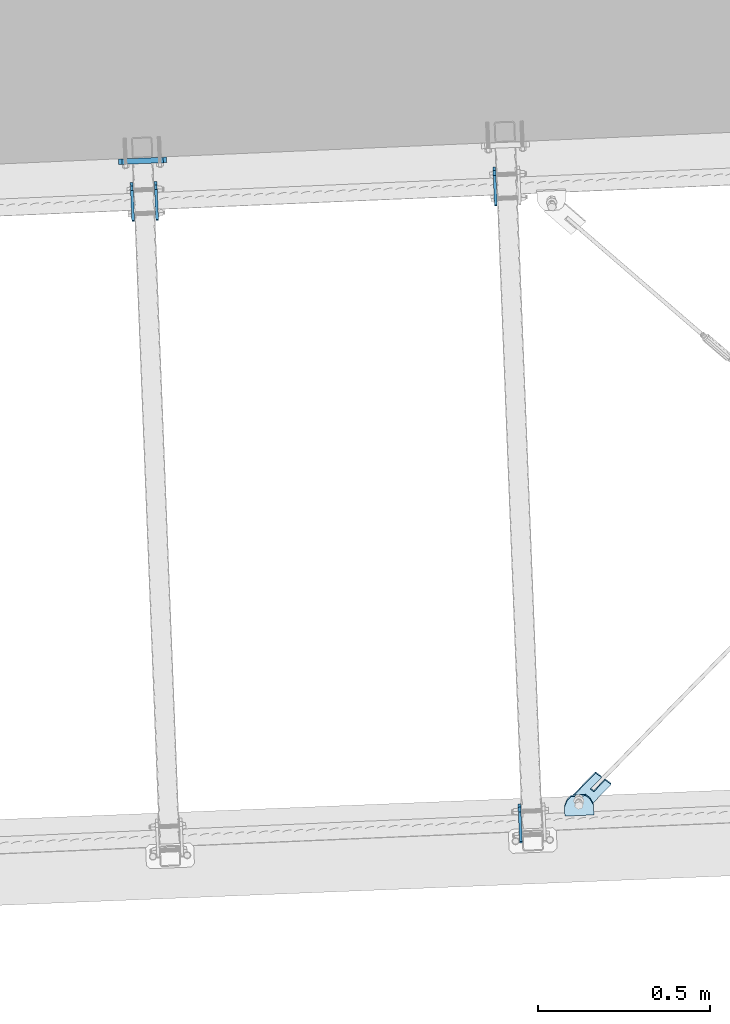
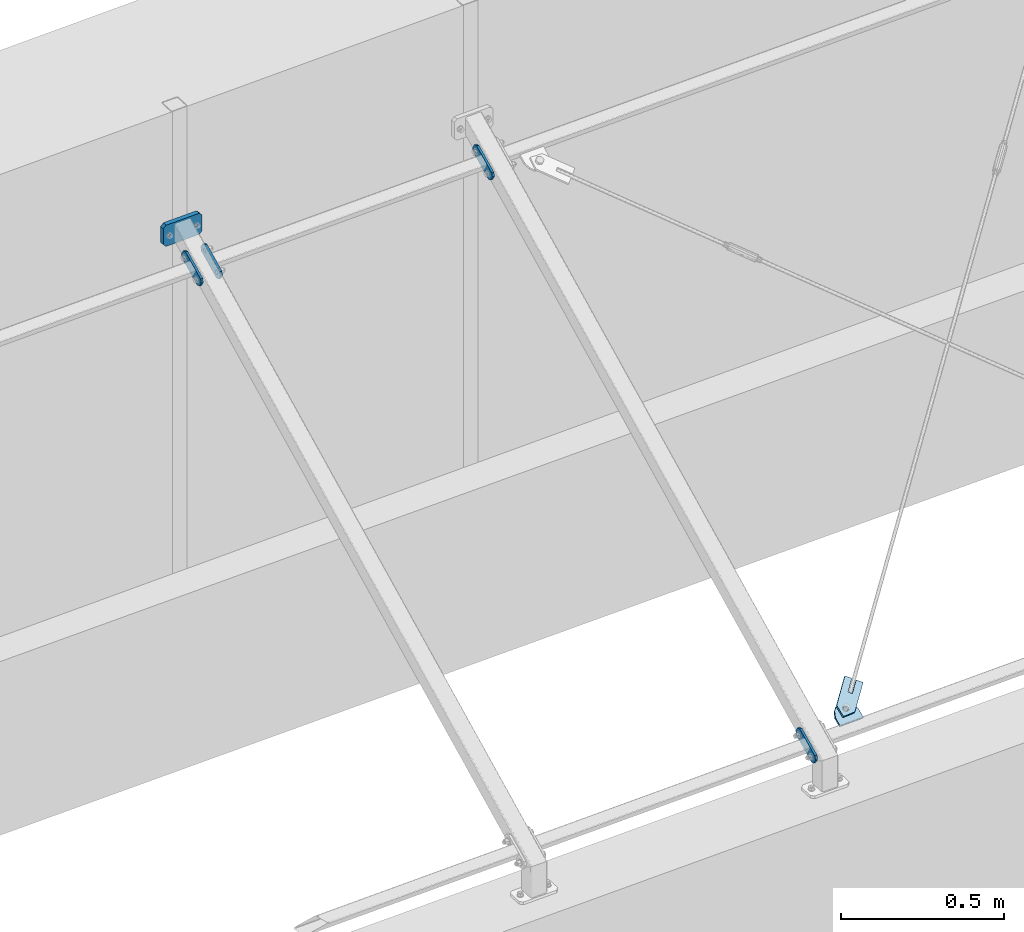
# One storey, part 63 of 288: 7 plates, 40 openings.
"""IFC2X3 building model written with IfcOpenShell, lengths in millimetres."""

from ifc_helpers import new_model, entity, si_unit, converted_unit, point, frame, frame_2d, origin, origin_with_axes, origin_2d_with_axis, place, context, project, spatial, polyline, circle_curve, line_curve, trimmed, segment, composite_curve, circle, outline, extrude, material, layer, layer_set, element, save


model = new_model("IFC2X3")

# Units and contexts
model_context = context("Model", 3, precision=1e-09, world=origin_with_axes())
ifc_project = project(units=[si_unit("LENGTHUNIT", "METRE", prefix="MILLI"), si_unit("AREAUNIT", "SQUARE_METRE"), si_unit("VOLUMEUNIT", "CUBIC_METRE"), converted_unit("PLANEANGLEUNIT", "DEGREE", entity("IfcPlaneAngleMeasure", 0.01745329), si_unit("PLANEANGLEUNIT", "RADIAN"), dimensions=[0, 0, 0, 0, 0, 0, 0])], contexts=[model_context])

# Site, building, storey
site_placement = place(None, origin_with_axes())
site = spatial("IfcSite", under=ifc_project, at=site_placement, Name="Remont ?wietlik?w nad MC w NCPP w Opolu", CompositionType="ELEMENT")
building_placement = place(site_placement, origin_with_axes())
building = spatial("IfcBuilding", under=site, at=building_placement, Name="Konstrukcja 1", CompositionType="ELEMENT")
storey_placement = place(building_placement, origin_with_axes())
storey = spatial("IfcBuildingStorey", under=building, at=storey_placement, Name="Default Storey", CompositionType="ELEMENT", Elevation=0.0)

# Plate, openings
ifc_material = material(Name="S235")
ifc_layer_1 = layer(ifc_material, 8.0)
ifc_layer_set_1 = layer_set([ifc_layer_1], Name="S235")
plate_1_placement = place(None, frame((6556.54076024, 15663.937336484, 1175.254692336), z_axis=(-0.999102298, -0.042361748, 0.000284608), x_axis=(0.021561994, -0.502733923, 0.864172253)))
plate_1 = element("IfcPlate", 1, at=plate_1_placement, inside=storey, material=ifc_layer_set_1, Name="-", ObjectType="-", context=model_context, shape_type="SweptSolid", body=[
    extrude(outline(polyline([(0.0, 0.0), (40.0, 0.0), (40.0, 120.0), (0.0, 120.0), (0.0, 0.0)])), origin_with_axes(), (0.0, 0.0, 1.0), 8.0),
])
opening_1_placement = place(plate_1_placement, frame((0.0, 0.0, -0.01), z_axis=(0.0, 0.0, 1.0), x_axis=(1.0, 0.0, 0.0)))
element("IfcOpeningElement", 2, at=opening_1_placement, cuts=plate_1, ObjectType="Opening", context=model_context, shape_type="SweptSolid", body=[
    extrude(outline(composite_curve([segment(trimmed(line_curve((40.0, 0.0), (0.0, 1.0), 10.0), [point((40.0, 0.0))], [point((40.0, 10.0))], True, "CARTESIAN"), True, "CONTINUOUS"), segment(trimmed(circle_curve(frame_2d((30.0, 10.0), x_axis=(-1.0, 0.0)), 10.0), [point((40.0, 10.0))], [point((30.0, 0.0))], False, "CARTESIAN"), True, "CONTINUOUS"), segment(trimmed(line_curve((30.0, 0.0), (1.0, 0.0), 10.0), [point((30.0, 0.0))], [point((40.0, 0.0))], True, "CARTESIAN"), True, "CONTINUOUS")], self_intersect=False)), origin(), (0.0, 0.0, 1.0), 8.02),
])
opening_2_placement = place(plate_1_placement, frame((0.0, 0.0, -0.01), z_axis=(0.0, 0.0, 1.0), x_axis=(1.0, 0.0, 0.0)))
element("IfcOpeningElement", 3, at=opening_2_placement, cuts=plate_1, ObjectType="Opening", context=model_context, shape_type="SweptSolid", body=[
    extrude(outline(composite_curve([segment(trimmed(line_curve((0.0, 0.0), (1.0, 0.0), 10.0), [point((0.0, 0.0))], [point((10.0, 0.0))], True, "CARTESIAN"), True, "CONTINUOUS"), segment(trimmed(circle_curve(frame_2d((10.0, 10.0), x_axis=(-1.0, 0.0)), 10.0), [point((10.0, 0.0))], [point((0.0, 10.0))], False, "CARTESIAN"), True, "CONTINUOUS"), segment(trimmed(line_curve((0.0, 10.0), (0.0, -1.0), 10.0), [point((0.0, 10.0))], [point((0.0, 0.0))], True, "CARTESIAN"), True, "CONTINUOUS")], self_intersect=False)), origin(), (0.0, 0.0, 1.0), 8.02),
])
opening_3_placement = place(plate_1_placement, frame((0.0, 0.0, -0.01), z_axis=(0.0, 0.0, 1.0), x_axis=(1.0, 0.0, 0.0)))
element("IfcOpeningElement", 4, at=opening_3_placement, cuts=plate_1, ObjectType="Opening", context=model_context, shape_type="SweptSolid", body=[
    extrude(outline(composite_curve([segment(trimmed(line_curve((40.0, 120.0), (-1.0, 0.0), 10.0), [point((40.0, 120.0))], [point((30.0, 120.0))], True, "CARTESIAN"), True, "CONTINUOUS"), segment(trimmed(circle_curve(frame_2d((30.0, 110.0), x_axis=(-1.0, 0.0)), 10.0), [point((30.0, 120.0))], [point((40.0, 110.0))], False, "CARTESIAN"), True, "CONTINUOUS"), segment(trimmed(line_curve((40.0, 110.0), (0.0, 1.0), 10.0), [point((40.0, 110.0))], [point((40.0, 120.0))], True, "CARTESIAN"), True, "CONTINUOUS")], self_intersect=False)), origin(), (0.0, 0.0, 1.0), 8.02),
])
opening_4_placement = place(plate_1_placement, frame((0.0, 0.0, -0.01), z_axis=(0.0, 0.0, 1.0), x_axis=(1.0, 0.0, 0.0)))
element("IfcOpeningElement", 5, at=opening_4_placement, cuts=plate_1, ObjectType="Opening", context=model_context, shape_type="SweptSolid", body=[
    extrude(outline(composite_curve([segment(trimmed(line_curve((0.0, 120.0), (0.0, -1.0), 10.0), [point((0.0, 120.0))], [point((0.0, 110.0))], True, "CARTESIAN"), True, "CONTINUOUS"), segment(trimmed(circle_curve(frame_2d((10.0, 110.0), x_axis=(-1.0, 0.0)), 10.0), [point((0.0, 110.0))], [point((10.0, 120.0))], False, "CARTESIAN"), True, "CONTINUOUS"), segment(trimmed(line_curve((10.0, 120.0), (-1.0, 0.0), 10.0), [point((10.0, 120.0))], [point((0.0, 120.0))], True, "CARTESIAN"), True, "CONTINUOUS")], self_intersect=False)), origin(), (0.0, 0.0, 1.0), 8.02),
])
opening_5_placement = place(plate_1_placement, frame((20.0, 60.0, -0.5), z_axis=(0.0, 0.0, 1.0), x_axis=(1.0, 0.0, 0.0)))
element("IfcOpeningElement", 6, at=opening_5_placement, cuts=plate_1, ObjectType="Opening", context=model_context, shape_type="SweptSolid", body=[
    extrude(circle(Radius=7.001, at=frame_2d((0.0, 40.0), x_axis=(1.0, 0.0))), origin(), (0.0, 0.0, 1.0), 9.0),
])
opening_6_placement = place(plate_1_placement, frame((20.0, 60.0, -0.5), z_axis=(0.0, 0.0, 1.0), x_axis=(1.0, 0.0, 0.0)))
element("IfcOpeningElement", 7, at=opening_6_placement, cuts=plate_1, ObjectType="Opening", context=model_context, shape_type="SweptSolid", body=[
    extrude(circle(Radius=7.001, at=frame_2d((0.0, -40.0), x_axis=(1.0, 0.0))), origin(), (0.0, 0.0, 1.0), 9.0),
])

plate_2_placement = place(None, frame((6629.657102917, 13809.081196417, 92.117420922), z_axis=(-0.999102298, -0.042361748, 0.000284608), x_axis=(0.021561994, -0.502733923, 0.864172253)))
plate_2 = element("IfcPlate", 8, at=plate_2_placement, inside=storey, material=ifc_layer_set_1, Name="-", ObjectType="-", context=model_context, shape_type="SweptSolid", body=[
    extrude(outline(polyline([(0.0, 0.0), (40.0, 0.0), (40.0, 120.0), (0.0, 120.0), (0.0, 0.0)])), origin_with_axes(), (0.0, 0.0, 1.0), 8.0),
])
opening_7_placement = place(plate_2_placement, frame((12.999, 100.0, 8.5), z_axis=(0.0, 0.0, 1.0), x_axis=(1.0, 0.0, 0.0)))
element("IfcOpeningElement", 9, at=opening_7_placement, cuts=plate_2, ObjectType="Opening", context=model_context, shape_type="SweptSolid", body=[
    extrude(circle(Radius=7.001, at=frame_2d((7.001, 0.0), x_axis=(1.0, 0.0))), origin(), (0.0, 0.0, -1.0), 9.0),
])
opening_8_placement = place(plate_2_placement, frame((12.999, 20.0, 8.5), z_axis=(0.0, 0.0, 1.0), x_axis=(1.0, 0.0, 0.0)))
element("IfcOpeningElement", 10, at=opening_8_placement, cuts=plate_2, ObjectType="Opening", context=model_context, shape_type="SweptSolid", body=[
    extrude(circle(Radius=7.001, at=frame_2d((7.001, 0.0), x_axis=(1.0, 0.0))), origin(), (0.0, 0.0, -1.0), 9.0),
])
opening_9_placement = place(plate_2_placement, frame((0.0, 0.0, -0.01), z_axis=(0.0, 0.0, 1.0), x_axis=(1.0, 0.0, 0.0)))
element("IfcOpeningElement", 11, at=opening_9_placement, cuts=plate_2, ObjectType="Opening", context=model_context, shape_type="SweptSolid", body=[
    extrude(outline(composite_curve([segment(trimmed(line_curve((40.0, 0.0), (0.0, 1.0), 10.0), [point((40.0, 0.0))], [point((40.0, 10.0))], True, "CARTESIAN"), True, "CONTINUOUS"), segment(trimmed(circle_curve(frame_2d((30.0, 10.0), x_axis=(-1.0, 0.0)), 10.0), [point((40.0, 10.0))], [point((30.0, 0.0))], False, "CARTESIAN"), True, "CONTINUOUS"), segment(trimmed(line_curve((30.0, 0.0), (1.0, 0.0), 10.0), [point((30.0, 0.0))], [point((40.0, 0.0))], True, "CARTESIAN"), True, "CONTINUOUS")], self_intersect=False)), origin(), (0.0, 0.0, 1.0), 8.02),
])
opening_10_placement = place(plate_2_placement, frame((0.0, 0.0, -0.01), z_axis=(0.0, 0.0, 1.0), x_axis=(1.0, 0.0, 0.0)))
element("IfcOpeningElement", 12, at=opening_10_placement, cuts=plate_2, ObjectType="Opening", context=model_context, shape_type="SweptSolid", body=[
    extrude(outline(composite_curve([segment(trimmed(line_curve((0.0, 0.0), (1.0, 0.0), 10.0), [point((0.0, 0.0))], [point((10.0, 0.0))], True, "CARTESIAN"), True, "CONTINUOUS"), segment(trimmed(circle_curve(frame_2d((10.0, 10.0), x_axis=(-1.0, 0.0)), 10.0), [point((10.0, 0.0))], [point((0.0, 10.0))], False, "CARTESIAN"), True, "CONTINUOUS"), segment(trimmed(line_curve((0.0, 10.0), (0.0, -1.0), 10.0), [point((0.0, 10.0))], [point((0.0, 0.0))], True, "CARTESIAN"), True, "CONTINUOUS")], self_intersect=False)), origin(), (0.0, 0.0, 1.0), 8.02),
])
opening_11_placement = place(plate_2_placement, frame((0.0, 0.0, -0.01), z_axis=(0.0, 0.0, 1.0), x_axis=(1.0, 0.0, 0.0)))
element("IfcOpeningElement", 13, at=opening_11_placement, cuts=plate_2, ObjectType="Opening", context=model_context, shape_type="SweptSolid", body=[
    extrude(outline(composite_curve([segment(trimmed(line_curve((40.0, 120.0), (-1.0, 0.0), 10.0), [point((40.0, 120.0))], [point((30.0, 120.0))], True, "CARTESIAN"), True, "CONTINUOUS"), segment(trimmed(circle_curve(frame_2d((30.0, 110.0), x_axis=(-1.0, 0.0)), 10.0), [point((30.0, 120.0))], [point((40.0, 110.0))], False, "CARTESIAN"), True, "CONTINUOUS"), segment(trimmed(line_curve((40.0, 110.0), (0.0, 1.0), 10.0), [point((40.0, 110.0))], [point((40.0, 120.0))], True, "CARTESIAN"), True, "CONTINUOUS")], self_intersect=False)), origin(), (0.0, 0.0, 1.0), 8.02),
])
opening_12_placement = place(plate_2_placement, frame((0.0, 0.0, -0.01), z_axis=(0.0, 0.0, 1.0), x_axis=(1.0, 0.0, 0.0)))
element("IfcOpeningElement", 14, at=opening_12_placement, cuts=plate_2, ObjectType="Opening", context=model_context, shape_type="SweptSolid", body=[
    extrude(outline(composite_curve([segment(trimmed(line_curve((0.0, 120.0), (0.0, -1.0), 10.0), [point((0.0, 120.0))], [point((0.0, 110.0))], True, "CARTESIAN"), True, "CONTINUOUS"), segment(trimmed(circle_curve(frame_2d((10.0, 110.0), x_axis=(-1.0, 0.0)), 10.0), [point((0.0, 110.0))], [point((10.0, 120.0))], False, "CARTESIAN"), True, "CONTINUOUS"), segment(trimmed(line_curve((10.0, 120.0), (-1.0, 0.0), 10.0), [point((10.0, 120.0))], [point((0.0, 120.0))], True, "CARTESIAN"), True, "CONTINUOUS")], self_intersect=False)), origin(), (0.0, 0.0, 1.0), 8.02),
])
opening_13_placement = place(plate_2_placement, frame((12.999, 100.0, 8.5), z_axis=(0.0, 0.0, 1.0), x_axis=(1.0, 0.0, 0.0)))
element("IfcOpeningElement", 15, at=opening_13_placement, cuts=plate_2, ObjectType="Opening", context=model_context, shape_type="SweptSolid", body=[
    extrude(circle(Radius=7.001, at=frame_2d((7.001, 0.0), x_axis=(1.0, 0.0))), origin(), (0.0, 0.0, -1.0), 9.0),
])
opening_14_placement = place(plate_2_placement, frame((12.999, 20.0, 8.5), z_axis=(0.0, 0.0, 1.0), x_axis=(1.0, 0.0, 0.0)))
element("IfcOpeningElement", 16, at=opening_14_placement, cuts=plate_2, ObjectType="Opening", context=model_context, shape_type="SweptSolid", body=[
    extrude(circle(Radius=7.001, at=frame_2d((7.001, 0.0), x_axis=(1.0, 0.0))), origin(), (0.0, 0.0, -1.0), 9.0),
])

plate_3_placement = place(None, frame((5569.838931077, 15622.101365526, 1175.535767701), z_axis=(-0.999102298, -0.042361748, 0.000284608), x_axis=(0.021561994, -0.502733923, 0.864172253)))
plate_3 = element("IfcPlate", 17, at=plate_3_placement, inside=storey, material=ifc_layer_set_1, Name="-", ObjectType="-", context=model_context, shape_type="SweptSolid", body=[
    extrude(outline(polyline([(0.0, 0.0), (40.0, 0.0), (40.0, 120.0), (0.0, 120.0), (0.0, 0.0)])), origin_with_axes(), (0.0, 0.0, 1.0), 8.0),
])
opening_15_placement = place(plate_3_placement, frame((0.0, 0.0, -0.01), z_axis=(0.0, 0.0, 1.0), x_axis=(1.0, 0.0, 0.0)))
element("IfcOpeningElement", 18, at=opening_15_placement, cuts=plate_3, ObjectType="Opening", context=model_context, shape_type="SweptSolid", body=[
    extrude(outline(composite_curve([segment(trimmed(line_curve((0.0, 0.0), (1.0, 0.0), 10.0), [point((0.0, 0.0))], [point((10.0, 0.0))], True, "CARTESIAN"), True, "CONTINUOUS"), segment(trimmed(circle_curve(frame_2d((10.0, 10.0), x_axis=(-1.0, 0.0)), 10.0), [point((10.0, 0.0))], [point((0.0, 10.0))], False, "CARTESIAN"), True, "CONTINUOUS"), segment(trimmed(line_curve((0.0, 10.0), (0.0, -1.0), 10.0), [point((0.0, 10.0))], [point((0.0, 0.0))], True, "CARTESIAN"), True, "CONTINUOUS")], self_intersect=False)), origin(), (0.0, 0.0, 1.0), 8.02),
])
opening_16_placement = place(plate_3_placement, frame((0.0, 0.0, -0.01), z_axis=(0.0, 0.0, 1.0), x_axis=(1.0, 0.0, 0.0)))
element("IfcOpeningElement", 19, at=opening_16_placement, cuts=plate_3, ObjectType="Opening", context=model_context, shape_type="SweptSolid", body=[
    extrude(outline(composite_curve([segment(trimmed(line_curve((40.0, 0.0), (0.0, 1.0), 10.0), [point((40.0, 0.0))], [point((40.0, 10.0))], True, "CARTESIAN"), True, "CONTINUOUS"), segment(trimmed(circle_curve(frame_2d((30.0, 10.0), x_axis=(-1.0, 0.0)), 10.0), [point((40.0, 10.0))], [point((30.0, 0.0))], False, "CARTESIAN"), True, "CONTINUOUS"), segment(trimmed(line_curve((30.0, 0.0), (1.0, 0.0), 10.0), [point((30.0, 0.0))], [point((40.0, 0.0))], True, "CARTESIAN"), True, "CONTINUOUS")], self_intersect=False)), origin(), (0.0, 0.0, 1.0), 8.02),
])
opening_17_placement = place(plate_3_placement, frame((0.0, 0.0, -0.01), z_axis=(0.0, 0.0, 1.0), x_axis=(1.0, 0.0, 0.0)))
element("IfcOpeningElement", 20, at=opening_17_placement, cuts=plate_3, ObjectType="Opening", context=model_context, shape_type="SweptSolid", body=[
    extrude(outline(composite_curve([segment(trimmed(line_curve((40.0, 120.0), (-1.0, 0.0), 10.0), [point((40.0, 120.0))], [point((30.0, 120.0))], True, "CARTESIAN"), True, "CONTINUOUS"), segment(trimmed(circle_curve(frame_2d((30.0, 110.0), x_axis=(-1.0, 0.0)), 10.0), [point((30.0, 120.0))], [point((40.0, 110.0))], False, "CARTESIAN"), True, "CONTINUOUS"), segment(trimmed(line_curve((40.0, 110.0), (0.0, 1.0), 10.0), [point((40.0, 110.0))], [point((40.0, 120.0))], True, "CARTESIAN"), True, "CONTINUOUS")], self_intersect=False)), origin(), (0.0, 0.0, 1.0), 8.02),
])
opening_18_placement = place(plate_3_placement, frame((0.0, 0.0, -0.01), z_axis=(0.0, 0.0, 1.0), x_axis=(1.0, 0.0, 0.0)))
element("IfcOpeningElement", 21, at=opening_18_placement, cuts=plate_3, ObjectType="Opening", context=model_context, shape_type="SweptSolid", body=[
    extrude(outline(composite_curve([segment(trimmed(line_curve((0.0, 120.0), (0.0, -1.0), 10.0), [point((0.0, 120.0))], [point((0.0, 110.0))], True, "CARTESIAN"), True, "CONTINUOUS"), segment(trimmed(circle_curve(frame_2d((10.0, 110.0), x_axis=(-1.0, 0.0)), 10.0), [point((0.0, 110.0))], [point((10.0, 120.0))], False, "CARTESIAN"), True, "CONTINUOUS"), segment(trimmed(line_curve((10.0, 120.0), (-1.0, 0.0), 10.0), [point((10.0, 120.0))], [point((0.0, 120.0))], True, "CARTESIAN"), True, "CONTINUOUS")], self_intersect=False)), origin(), (0.0, 0.0, 1.0), 8.02),
])
opening_19_placement = place(plate_3_placement, frame((20.0, 60.0, -0.5), z_axis=(0.0, 0.0, 1.0), x_axis=(1.0, 0.0, 0.0)))
element("IfcOpeningElement", 22, at=opening_19_placement, cuts=plate_3, ObjectType="Opening", context=model_context, shape_type="SweptSolid", body=[
    extrude(circle(Radius=7.001, at=frame_2d((0.0, 40.0), x_axis=(1.0, 0.0))), origin(), (0.0, 0.0, 1.0), 9.0),
])
opening_20_placement = place(plate_3_placement, frame((20.0, 60.0, -0.5), z_axis=(0.0, 0.0, 1.0), x_axis=(1.0, 0.0, 0.0)))
element("IfcOpeningElement", 23, at=opening_20_placement, cuts=plate_3, ObjectType="Opening", context=model_context, shape_type="SweptSolid", body=[
    extrude(circle(Radius=7.001, at=frame_2d((0.0, -40.0), x_axis=(1.0, 0.0))), origin(), (0.0, 0.0, 1.0), 9.0),
])

plate_4_placement = place(None, frame((5499.901770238, 15619.136043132, 1175.555690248), z_axis=(-0.999102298, -0.042361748, 0.000284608), x_axis=(0.021561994, -0.502733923, 0.864172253)))
plate_4 = element("IfcPlate", 24, at=plate_4_placement, inside=storey, material=ifc_layer_set_1, Name="-", ObjectType="-", context=model_context, shape_type="SweptSolid", body=[
    extrude(outline(polyline([(0.0, 0.0), (40.0, 0.0), (40.0, 120.0), (0.0, 120.0), (0.0, 0.0)])), origin_with_axes(), (0.0, 0.0, 1.0), 8.0),
])
opening_21_placement = place(plate_4_placement, frame((0.0, 0.0, -0.01), z_axis=(0.0, 0.0, 1.0), x_axis=(1.0, 0.0, 0.0)))
element("IfcOpeningElement", 25, at=opening_21_placement, cuts=plate_4, ObjectType="Opening", context=model_context, shape_type="SweptSolid", body=[
    extrude(outline(composite_curve([segment(trimmed(line_curve((40.0, 0.0), (0.0, 1.0), 10.0), [point((40.0, 0.0))], [point((40.0, 10.0))], True, "CARTESIAN"), True, "CONTINUOUS"), segment(trimmed(circle_curve(frame_2d((30.0, 10.0), x_axis=(-1.0, 0.0)), 10.0), [point((40.0, 10.0))], [point((30.0, 0.0))], False, "CARTESIAN"), True, "CONTINUOUS"), segment(trimmed(line_curve((30.0, 0.0), (1.0, 0.0), 10.0), [point((30.0, 0.0))], [point((40.0, 0.0))], True, "CARTESIAN"), True, "CONTINUOUS")], self_intersect=False)), origin(), (0.0, 0.0, 1.0), 8.02),
])
opening_22_placement = place(plate_4_placement, frame((0.0, 0.0, -0.01), z_axis=(0.0, 0.0, 1.0), x_axis=(1.0, 0.0, 0.0)))
element("IfcOpeningElement", 26, at=opening_22_placement, cuts=plate_4, ObjectType="Opening", context=model_context, shape_type="SweptSolid", body=[
    extrude(outline(composite_curve([segment(trimmed(line_curve((0.0, 0.0), (1.0, 0.0), 10.0), [point((0.0, 0.0))], [point((10.0, 0.0))], True, "CARTESIAN"), True, "CONTINUOUS"), segment(trimmed(circle_curve(frame_2d((10.0, 10.0), x_axis=(-1.0, 0.0)), 10.0), [point((10.0, 0.0))], [point((0.0, 10.0))], False, "CARTESIAN"), True, "CONTINUOUS"), segment(trimmed(line_curve((0.0, 10.0), (0.0, -1.0), 10.0), [point((0.0, 10.0))], [point((0.0, 0.0))], True, "CARTESIAN"), True, "CONTINUOUS")], self_intersect=False)), origin(), (0.0, 0.0, 1.0), 8.02),
])
opening_23_placement = place(plate_4_placement, frame((0.0, 0.0, -0.01), z_axis=(0.0, 0.0, 1.0), x_axis=(1.0, 0.0, 0.0)))
element("IfcOpeningElement", 27, at=opening_23_placement, cuts=plate_4, ObjectType="Opening", context=model_context, shape_type="SweptSolid", body=[
    extrude(outline(composite_curve([segment(trimmed(line_curve((40.0, 120.0), (-1.0, 0.0), 10.0), [point((40.0, 120.0))], [point((30.0, 120.0))], True, "CARTESIAN"), True, "CONTINUOUS"), segment(trimmed(circle_curve(frame_2d((30.0, 110.0), x_axis=(-1.0, 0.0)), 10.0), [point((30.0, 120.0))], [point((40.0, 110.0))], False, "CARTESIAN"), True, "CONTINUOUS"), segment(trimmed(line_curve((40.0, 110.0), (0.0, 1.0), 10.0), [point((40.0, 110.0))], [point((40.0, 120.0))], True, "CARTESIAN"), True, "CONTINUOUS")], self_intersect=False)), origin(), (0.0, 0.0, 1.0), 8.02),
])
opening_24_placement = place(plate_4_placement, frame((0.0, 0.0, -0.01), z_axis=(0.0, 0.0, 1.0), x_axis=(1.0, 0.0, 0.0)))
element("IfcOpeningElement", 28, at=opening_24_placement, cuts=plate_4, ObjectType="Opening", context=model_context, shape_type="SweptSolid", body=[
    extrude(outline(composite_curve([segment(trimmed(line_curve((0.0, 120.0), (0.0, -1.0), 10.0), [point((0.0, 120.0))], [point((0.0, 110.0))], True, "CARTESIAN"), True, "CONTINUOUS"), segment(trimmed(circle_curve(frame_2d((10.0, 110.0), x_axis=(-1.0, 0.0)), 10.0), [point((0.0, 110.0))], [point((10.0, 120.0))], False, "CARTESIAN"), True, "CONTINUOUS"), segment(trimmed(line_curve((10.0, 120.0), (-1.0, 0.0), 10.0), [point((10.0, 120.0))], [point((0.0, 120.0))], True, "CARTESIAN"), True, "CONTINUOUS")], self_intersect=False)), origin(), (0.0, 0.0, 1.0), 8.02),
])
opening_25_placement = place(plate_4_placement, frame((20.0, 60.0, -0.5), z_axis=(0.0, 0.0, 1.0), x_axis=(1.0, 0.0, 0.0)))
element("IfcOpeningElement", 29, at=opening_25_placement, cuts=plate_4, ObjectType="Opening", context=model_context, shape_type="SweptSolid", body=[
    extrude(circle(Radius=7.001, at=frame_2d((0.0, 40.0), x_axis=(1.0, 0.0))), origin(), (0.0, 0.0, 1.0), 9.0),
])
opening_26_placement = place(plate_4_placement, frame((20.0, 60.0, -0.5), z_axis=(0.0, 0.0, 1.0), x_axis=(1.0, 0.0, 0.0)))
element("IfcOpeningElement", 30, at=opening_26_placement, cuts=plate_4, ObjectType="Opening", context=model_context, shape_type="SweptSolid", body=[
    extrude(circle(Radius=7.001, at=frame_2d((0.0, -40.0), x_axis=(1.0, 0.0))), origin(), (0.0, 0.0, 1.0), 9.0),
])

ifc_layer_2 = layer(ifc_material, 16.0)
ifc_layer_set_2 = layer_set([ifc_layer_2], Name="S235")
plate_5_placement = place(None, frame((5594.341771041, 15775.480694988, 1327.245875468), z_axis=(-0.039393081, 0.999223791, 0.0), x_axis=(0.0, 0.0, -1.0)))
plate_5 = element("IfcPlate", 31, at=plate_5_placement, inside=storey, material=ifc_layer_set_2, Name="Baseplate", ObjectType="Baseplate", context=model_context, shape_type="SweptSolid", body=[
    extrude(outline(polyline([(0.0, 0.0), (79.46690723, 0.0), (79.46690723, 140.0), (0.0, 140.0), (0.0, 0.0)])), origin_with_axes(), (0.0, 0.0, 1.0), 16.0),
])
opening_27_placement = place(plate_5_placement, frame((0.0, 0.0, -0.01), z_axis=(0.0, 0.0, 1.0), x_axis=(1.0, 0.0, 0.0)))
element("IfcOpeningElement", 32, at=opening_27_placement, cuts=plate_5, ObjectType="Opening", context=model_context, shape_type="SweptSolid", body=[
    extrude(outline(composite_curve([segment(trimmed(line_curve((0.0, 140.0), (0.0, -1.0), 10.0), [point((0.0, 140.0))], [point((0.0, 130.0))], True, "CARTESIAN"), True, "CONTINUOUS"), segment(trimmed(circle_curve(frame_2d((10.0, 130.0), x_axis=(-1.0, 0.0)), 10.0), [point((0.0, 130.0))], [point((10.0, 140.0))], False, "CARTESIAN"), True, "CONTINUOUS"), segment(trimmed(line_curve((10.0, 140.0), (-1.0, 0.0), 10.0), [point((10.0, 140.0))], [point((0.0, 140.0))], True, "CARTESIAN"), True, "CONTINUOUS")], self_intersect=False)), origin(), (0.0, 0.0, 1.0), 16.02),
])
opening_28_placement = place(plate_5_placement, frame((0.0, 0.0, -0.01), z_axis=(0.0, 0.0, 1.0), x_axis=(1.0, 0.0, 0.0)))
element("IfcOpeningElement", 33, at=opening_28_placement, cuts=plate_5, ObjectType="Opening", context=model_context, shape_type="SweptSolid", body=[
    extrude(outline(composite_curve([segment(trimmed(line_curve((79.46690723, 140.0), (-1.0, 0.0), 10.0), [point((79.46690723, 140.0))], [point((69.46690723, 140.0))], True, "CARTESIAN"), True, "CONTINUOUS"), segment(trimmed(circle_curve(frame_2d((69.46690723, 130.0), x_axis=(-1.0, 0.0)), 10.0), [point((69.46690723, 140.0))], [point((79.46690723, 130.0))], False, "CARTESIAN"), True, "CONTINUOUS"), segment(trimmed(line_curve((79.46690723, 130.0), (0.0, 1.0), 10.0), [point((79.46690723, 130.0))], [point((79.46690723, 140.0))], True, "CARTESIAN"), True, "CONTINUOUS")], self_intersect=False)), origin(), (0.0, 0.0, 1.0), 16.02),
])
opening_29_placement = place(plate_5_placement, frame((0.0, 0.0, -0.01), z_axis=(0.0, 0.0, 1.0), x_axis=(1.0, 0.0, 0.0)))
element("IfcOpeningElement", 34, at=opening_29_placement, cuts=plate_5, ObjectType="Opening", context=model_context, shape_type="SweptSolid", body=[
    extrude(outline(composite_curve([segment(trimmed(line_curve((79.46690723, 0.0), (0.0, 1.0), 10.0), [point((79.46690723, 0.0))], [point((79.46690723, 10.0))], True, "CARTESIAN"), True, "CONTINUOUS"), segment(trimmed(circle_curve(frame_2d((69.46690723, 10.0), x_axis=(-1.0, 0.0)), 10.0), [point((79.46690723, 10.0))], [point((69.46690723, 0.0))], False, "CARTESIAN"), True, "CONTINUOUS"), segment(trimmed(line_curve((69.46690723, 0.0), (1.0, 0.0), 10.0), [point((69.46690723, 0.0))], [point((79.46690723, 0.0))], True, "CARTESIAN"), True, "CONTINUOUS")], self_intersect=False)), origin(), (0.0, 0.0, 1.0), 16.02),
])
opening_30_placement = place(plate_5_placement, frame((0.0, 0.0, -0.01), z_axis=(0.0, 0.0, 1.0), x_axis=(1.0, 0.0, 0.0)))
element("IfcOpeningElement", 35, at=opening_30_placement, cuts=plate_5, ObjectType="Opening", context=model_context, shape_type="SweptSolid", body=[
    extrude(outline(composite_curve([segment(trimmed(line_curve((0.0, 0.0), (1.0, 0.0), 10.0), [point((0.0, 0.0))], [point((10.0, 0.0))], True, "CARTESIAN"), True, "CONTINUOUS"), segment(trimmed(circle_curve(frame_2d((10.0, 10.0), x_axis=(-1.0, 0.0)), 10.0), [point((10.0, 0.0))], [point((0.0, 10.0))], False, "CARTESIAN"), True, "CONTINUOUS"), segment(trimmed(line_curve((0.0, 10.0), (0.0, -1.0), 10.0), [point((0.0, 10.0))], [point((0.0, 0.0))], True, "CARTESIAN"), True, "CONTINUOUS")], self_intersect=False)), origin(), (0.0, 0.0, 1.0), 16.02),
])
opening_31_placement = place(plate_5_placement, frame((39.733453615, 20.0, 16.5), z_axis=(0.0, 0.0, -1.0), x_axis=(1.0, 0.0, 0.0)))
element("IfcOpeningElement", 36, at=opening_31_placement, cuts=plate_5, ObjectType="Opening", context=model_context, shape_type="SweptSolid", body=[
    extrude(circle(Radius=6.001, at=origin_2d_with_axis()), origin(), (0.0, 0.0, 1.0), 17.0),
])
opening_32_placement = place(plate_5_placement, frame((39.733453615, 120.0, 16.5), z_axis=(0.0, 0.0, -1.0), x_axis=(1.0, 0.0, 0.0)))
element("IfcOpeningElement", 37, at=opening_32_placement, cuts=plate_5, ObjectType="Opening", context=model_context, shape_type="SweptSolid", body=[
    extrude(circle(Radius=6.001, at=origin_2d_with_axis()), origin(), (0.0, 0.0, 1.0), 17.0),
])

plate_6_placement = place(None, frame((6843.63813199, 13996.999099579, 233.302640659), z_axis=(-0.021594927, 0.503513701, -0.863717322), x_axis=(0.760459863, -0.552563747, -0.341136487)))
plate_6 = element("IfcPlate", 38, at=plate_6_placement, inside=storey, material=ifc_layer_set_1, Name="Tab_Plate#2", ObjectType="Tab_Plate#2", context=model_context, shape_type="SweptSolid", body=[
    extrude(outline(polyline([(0.0, 0.0), (60.0, 0.0), (60.0, 140.0), (0.0, 140.0), (0.0, 0.0)])), origin_with_axes(), (0.0, 0.0, 1.0), 8.0),
])
opening_33_placement = place(plate_6_placement, frame((0.0, 0.0, -0.01), z_axis=(0.0, 0.0, 1.0), x_axis=(1.0, 0.0, 0.0)))
element("IfcOpeningElement", 39, at=opening_33_placement, cuts=plate_6, ObjectType="Opening", context=model_context, shape_type="SweptSolid", body=[
    extrude(outline(composite_curve([segment(trimmed(line_curve((60.0, 140.0), (-1.0, 0.0), 30.0), [point((60.0, 140.0))], [point((30.0, 140.0))], True, "CARTESIAN"), True, "CONTINUOUS"), segment(trimmed(circle_curve(frame_2d((30.0, 110.0), x_axis=(-1.0, 0.0)), 30.0), [point((30.0, 140.0))], [point((60.0, 110.0))], False, "CARTESIAN"), True, "CONTINUOUS"), segment(trimmed(line_curve((60.0, 110.0), (0.0, 1.0), 30.0), [point((60.0, 110.0))], [point((60.0, 140.0))], True, "CARTESIAN"), True, "CONTINUOUS")], self_intersect=False)), origin(), (0.0, 0.0, 1.0), 8.02),
])
opening_34_placement = place(plate_6_placement, frame((0.0, 0.0, -0.01), z_axis=(0.0, 0.0, 1.0), x_axis=(1.0, 0.0, 0.0)))
element("IfcOpeningElement", 40, at=opening_34_placement, cuts=plate_6, ObjectType="Opening", context=model_context, shape_type="SweptSolid", body=[
    extrude(outline(composite_curve([segment(trimmed(line_curve((0.0, 140.0), (0.0, -1.0), 30.0), [point((0.0, 140.0))], [point((0.0, 110.0))], True, "CARTESIAN"), True, "CONTINUOUS"), segment(trimmed(circle_curve(frame_2d((30.0, 110.0), x_axis=(-1.0, 0.0)), 30.0), [point((0.0, 110.0))], [point((30.0, 140.0))], False, "CARTESIAN"), True, "CONTINUOUS"), segment(trimmed(line_curve((30.0, 140.0), (-1.0, 0.0), 30.0), [point((30.0, 140.0))], [point((0.0, 140.0))], True, "CARTESIAN"), True, "CONTINUOUS")], self_intersect=False)), origin(), (0.0, 0.0, 1.0), 8.02),
])
opening_35_placement = place(plate_6_placement, frame((0.0, 0.0, 8.1), z_axis=(0.0, 0.0, -1.0), x_axis=(0.736084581, -0.676889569, 0.0)))
element("IfcOpeningElement", 41, at=opening_35_placement, cuts=plate_6, ObjectType="Opening", context=model_context, shape_type="SweptSolid", body=[
    extrude(outline(polyline([(-17.592835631, -53.108832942), (-7.286179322, -62.58664069), (27.236542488, -25.044854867), (16.929886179, -15.567047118), (-17.592835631, -53.108832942)])), origin(), (0.0, 0.0, 1.0), 8.2),
])
opening_36_placement = place(plate_6_placement, frame((30.0, 110.0, 8.5), z_axis=(0.0, 0.0, -1.0), x_axis=(0.0, -1.0, 0.0)))
element("IfcOpeningElement", 42, at=opening_36_placement, cuts=plate_6, ObjectType="Opening", context=model_context, shape_type="SweptSolid", body=[
    extrude(circle(Radius=9.001, at=origin_2d_with_axis()), origin(), (0.0, 0.0, 1.0), 9.0),
])

plate_7_placement = place(None, frame((6836.998142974, 13918.766360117, 169.337423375), z_axis=(0.021594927, -0.503513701, 0.863717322), x_axis=(-0.760459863, 0.552563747, 0.341136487)))
plate_7 = element("IfcPlate", 43, at=plate_7_placement, inside=storey, material=ifc_layer_set_1, Name="Gusset#2", ObjectType="Gusset#2", context=model_context, shape_type="SweptSolid", body=[
    extrude(outline(polyline([(0.0, 0.0), (60.0, 0.0), (60.0, 60.0), (31.323039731, 91.22017084), (-31.111979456, 33.871139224), (0.0, 0.0)])), origin_with_axes(), (0.0, 0.0, 1.0), 8.0),
])
opening_37_placement = place(plate_7_placement, frame((30.0, 30.0, -0.5), z_axis=(0.0, 0.0, 1.0), x_axis=(0.0, -1.0, 0.0)))
element("IfcOpeningElement", 44, at=opening_37_placement, cuts=plate_7, ObjectType="Opening", context=model_context, shape_type="SweptSolid", body=[
    extrude(circle(Radius=9.001, at=origin_2d_with_axis()), origin(), (0.0, 0.0, 1.0), 9.0),
])
opening_38_placement = place(plate_7_placement, frame((0.0, 0.0, -0.01), z_axis=(0.0, 0.0, 1.0), x_axis=(1.0, 0.0, 0.0)))
element("IfcOpeningElement", 45, at=opening_38_placement, cuts=plate_7, ObjectType="Opening", context=model_context, shape_type="SweptSolid", body=[
    extrude(outline(composite_curve([segment(trimmed(line_curve((60.0, 60.0), (-0.676473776, 0.73646672), 11.687072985), [point((60.0, 60.0))], [point((52.094001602, 68.607140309))], True, "CARTESIAN"), True, "CONTINUOUS"), segment(trimmed(circle_curve(frame_2d((30.0, 48.312927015), x_axis=(-1.0, 0.0)), 30.0), [point((52.094001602, 68.607140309))], [point((60.0, 48.312927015))], False, "CARTESIAN"), True, "CONTINUOUS"), segment(trimmed(line_curve((60.0, 48.312927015), (0.0, 1.0), 11.687072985), [point((60.0, 48.312927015))], [point((60.0, 60.0))], True, "CARTESIAN"), True, "CONTINUOUS")], self_intersect=False)), origin(), (0.0, 0.0, 1.0), 8.02),
])
opening_39_placement = place(plate_7_placement, frame((0.0, 0.0, -0.01), z_axis=(0.0, 0.0, 1.0), x_axis=(1.0, 0.0, 0.0)))
element("IfcOpeningElement", 46, at=opening_39_placement, cuts=plate_7, ObjectType="Opening", context=model_context, shape_type="SweptSolid", body=[
    extrude(outline(composite_curve([segment(trimmed(line_curve((60.0, 0.0), (0.0, 1.0), 30.0), [point((60.0, 0.0))], [point((60.0, 30.0))], True, "CARTESIAN"), True, "CONTINUOUS"), segment(trimmed(circle_curve(frame_2d((30.0, 30.0), x_axis=(-1.0, 0.0)), 30.0), [point((60.0, 30.0))], [point((30.0, 0.0))], False, "CARTESIAN"), True, "CONTINUOUS"), segment(trimmed(line_curve((30.0, 0.0), (1.0, 0.0), 30.0), [point((30.0, 0.0))], [point((60.0, 0.0))], True, "CARTESIAN"), True, "CONTINUOUS")], self_intersect=False)), origin(), (0.0, 0.0, 1.0), 8.02),
])
opening_40_placement = place(plate_7_placement, frame((0.0, 0.0, -0.01), z_axis=(0.0, 0.0, 1.0), x_axis=(1.0, 0.0, 0.0)))
element("IfcOpeningElement", 47, at=opening_40_placement, cuts=plate_7, ObjectType="Opening", context=model_context, shape_type="SweptSolid", body=[
    extrude(outline(composite_curve([segment(trimmed(line_curve((0.0, 0.0), (1.0, 0.0), 13.178853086), [point((0.0, 0.0))], [point((13.178853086, 0.0))], True, "CARTESIAN"), True, "CONTINUOUS"), segment(trimmed(circle_curve(frame_2d((13.178853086, 30.0), x_axis=(-1.0, 0.0)), 30.0), [point((13.178853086, 0.0))], [point((-8.915148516, 9.705786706))], False, "CARTESIAN"), True, "CONTINUOUS"), segment(trimmed(line_curve((-8.915148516, 9.705786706), (0.676473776, -0.73646672), 13.178853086), [point((-8.915148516, 9.705786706))], [point((0.0, 0.0))], True, "CARTESIAN"), True, "CONTINUOUS")], self_intersect=False)), origin(), (0.0, 0.0, 1.0), 8.02),
])

save(model, "model.ifc")
